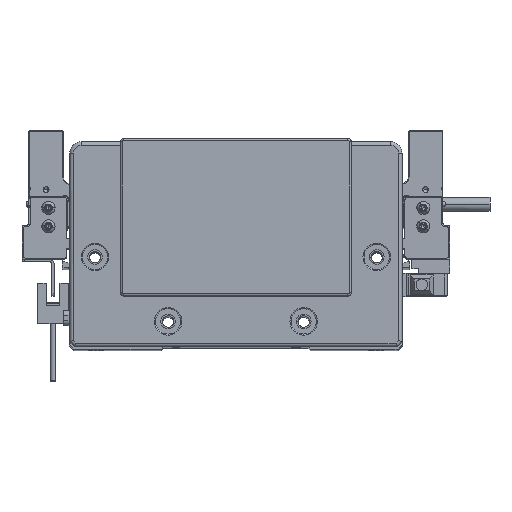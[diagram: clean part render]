
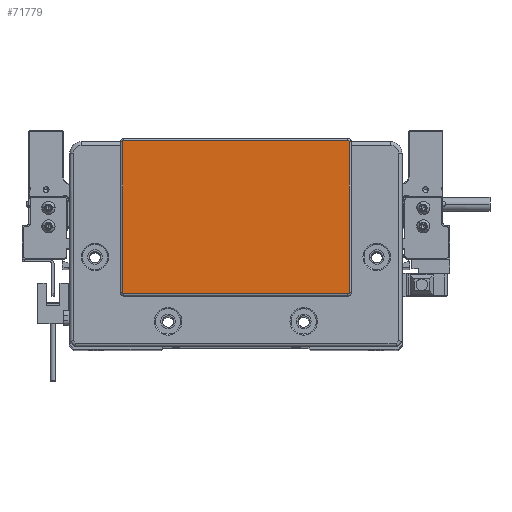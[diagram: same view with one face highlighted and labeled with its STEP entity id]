
A CAD part, top view. The second image highlights one B-rep face of the part: STEP entity #71779.
In plain terms, the highlighted planar face has unit normal (0, 0, 1) as drawn and (0, 0, -1) by its records, which use the part's own axes.
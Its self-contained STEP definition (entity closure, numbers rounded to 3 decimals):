
#293 = VECTOR ( 'NONE', #12606, 1000. ) ;
#970 = VECTOR ( 'NONE', #65430, 1000. ) ;
#972 = LINE ( 'NONE', #24269, #293 ) ;
#1160 = VERTEX_POINT ( 'NONE', #56916 ) ;
#1582 = VERTEX_POINT ( 'NONE', #20660 ) ;
#2566 = CARTESIAN_POINT ( 'NONE',  ( -48.75, 44.3, -2. ) ) ;
#3303 = DIRECTION ( 'NONE',  ( -1., 0., 0. ) ) ;
#3483 = DIRECTION ( 'NONE',  ( -1., 0., 0. ) ) ;
#5208 = VERTEX_POINT ( 'NONE', #57056 ) ;
#10734 = VERTEX_POINT ( 'NONE', #59985 ) ;
#10803 = VERTEX_POINT ( 'NONE', #14852 ) ;
#11372 = ORIENTED_EDGE ( 'NONE', *, *, #26727, .T. ) ;
#12335 = CARTESIAN_POINT ( 'NONE',  ( 48.75, 44.3, -2. ) ) ;
#12606 = DIRECTION ( 'NONE',  ( 0., -1., 0. ) ) ;
#13179 = CIRCLE ( 'NONE', #21824, 0.5 ) ;
#14852 = CARTESIAN_POINT ( 'NONE',  ( 48.75, -22.3, -2. ) ) ;
#15170 = EDGE_CURVE ( 'NONE', #1160, #36609, #70750, .T. ) ;
#16614 = CARTESIAN_POINT ( 'NONE',  ( 48.75, -21.8, -2. ) ) ;
#16870 = CIRCLE ( 'NONE', #42917, 0.5 ) ;
#19180 = VERTEX_POINT ( 'NONE', #2566 ) ;
#20242 = ORIENTED_EDGE ( 'NONE', *, *, #59836, .T. ) ;
#20660 = CARTESIAN_POINT ( 'NONE',  ( -48.75, -22.3, -2. ) ) ;
#21824 = AXIS2_PLACEMENT_3D ( 'NONE', #33566, #57284, #27718 ) ;
#22064 = ORIENTED_EDGE ( 'NONE', *, *, #52562, .T. ) ;
#24269 = CARTESIAN_POINT ( 'NONE',  ( 49.25, -21.8, -2. ) ) ;
#25974 = EDGE_LOOP ( 'NONE', ( #11372, #22064, #76142, #20242, #46102, #29708, #67366, #39736 ) ) ;
#26727 = EDGE_CURVE ( 'NONE', #5208, #10734, #972, .T. ) ;
#27718 = DIRECTION ( 'NONE',  ( -1., 0., 0. ) ) ;
#28981 = CARTESIAN_POINT ( 'NONE',  ( -48.75, 43.8, -2. ) ) ;
#29012 = EDGE_CURVE ( 'NONE', #10803, #1582, #65799, .T. ) ;
#29708 = ORIENTED_EDGE ( 'NONE', *, *, #35108, .T. ) ;
#33082 = VECTOR ( 'NONE', #59866, 1000. ) ;
#33566 = CARTESIAN_POINT ( 'NONE',  ( -48.75, -21.8, -2. ) ) ;
#33711 = DIRECTION ( 'NONE',  ( -1., 0., 0. ) ) ;
#35108 = EDGE_CURVE ( 'NONE', #36609, #19180, #71046, .T. ) ;
#35778 = CARTESIAN_POINT ( 'NONE',  ( -49.25, 43.8, -2. ) ) ;
#36609 = VERTEX_POINT ( 'NONE', #38070 ) ;
#36690 = CIRCLE ( 'NONE', #65238, 0.5 ) ;
#37389 = VECTOR ( 'NONE', #42613, 1000. ) ;
#38070 = CARTESIAN_POINT ( 'NONE',  ( -49.25, 43.8, -2. ) ) ;
#38645 = DIRECTION ( 'NONE',  ( 0., 0., -1. ) ) ;
#38773 = DIRECTION ( 'NONE',  ( 0., 0., -1. ) ) ;
#39736 = ORIENTED_EDGE ( 'NONE', *, *, #60606, .T. ) ;
#41699 = CARTESIAN_POINT ( 'NONE',  ( -48.75, -22.3, -2. ) ) ;
#42613 = DIRECTION ( 'NONE',  ( 1., 0., 0. ) ) ;
#42917 = AXIS2_PLACEMENT_3D ( 'NONE', #16614, #38773, #33711 ) ;
#43001 = LINE ( 'NONE', #12335, #37389 ) ;
#46102 = ORIENTED_EDGE ( 'NONE', *, *, #15170, .T. ) ;
#48864 = AXIS2_PLACEMENT_3D ( 'NONE', #67795, #38645, #3303 ) ;
#51227 = VERTEX_POINT ( 'NONE', #55102 ) ;
#52562 = EDGE_CURVE ( 'NONE', #10734, #10803, #16870, .T. ) ;
#55102 = CARTESIAN_POINT ( 'NONE',  ( 48.75, 44.3, -2. ) ) ;
#55756 = PLANE ( 'NONE',  #48864 ) ;
#56711 = CARTESIAN_POINT ( 'NONE',  ( 48.75, 43.8, -2. ) ) ;
#56916 = CARTESIAN_POINT ( 'NONE',  ( -49.25, -21.8, -2. ) ) ;
#57056 = CARTESIAN_POINT ( 'NONE',  ( 49.25, 43.8, -2. ) ) ;
#57284 = DIRECTION ( 'NONE',  ( 0., 0., -1. ) ) ;
#57876 = DIRECTION ( 'NONE',  ( 0., 0., -1. ) ) ;
#58552 = DIRECTION ( 'NONE',  ( -1., 0., 0. ) ) ;
#59836 = EDGE_CURVE ( 'NONE', #1582, #1160, #13179, .T. ) ;
#59866 = DIRECTION ( 'NONE',  ( 0., 1., 0. ) ) ;
#59985 = CARTESIAN_POINT ( 'NONE',  ( 49.25, -21.8, -2. ) ) ;
#60606 = EDGE_CURVE ( 'NONE', #51227, #5208, #36690, .T. ) ;
#62748 = FACE_OUTER_BOUND ( 'NONE', #25974, .T. ) ;
#65238 = AXIS2_PLACEMENT_3D ( 'NONE', #56711, #57876, #3483 ) ;
#65430 = DIRECTION ( 'NONE',  ( -1., 0., 0. ) ) ;
#65799 = LINE ( 'NONE', #41699, #970 ) ;
#65919 = DIRECTION ( 'NONE',  ( 0., 0., -1. ) ) ;
#67366 = ORIENTED_EDGE ( 'NONE', *, *, #67628, .T. ) ;
#67628 = EDGE_CURVE ( 'NONE', #19180, #51227, #43001, .T. ) ;
#67795 = CARTESIAN_POINT ( 'NONE',  ( 0., 0., -2. ) ) ;
#70750 = LINE ( 'NONE', #35778, #33082 ) ;
#71046 = CIRCLE ( 'NONE', #74760, 0.5 ) ;
#71779 = ADVANCED_FACE ( 'NONE', ( #62748 ), #55756, .T. ) ;
#74760 = AXIS2_PLACEMENT_3D ( 'NONE', #28981, #65919, #58552 ) ;
#76142 = ORIENTED_EDGE ( 'NONE', *, *, #29012, .T. ) ;
